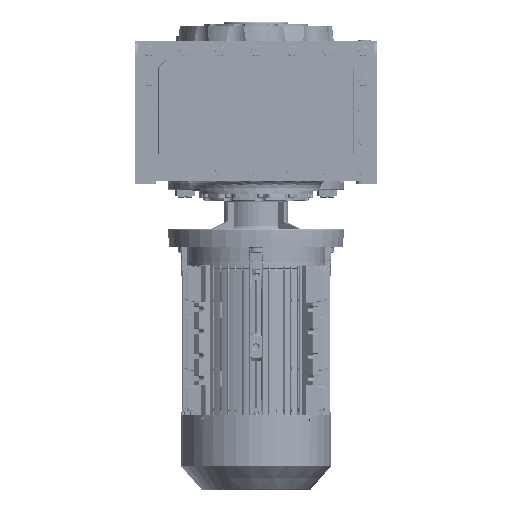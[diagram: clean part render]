
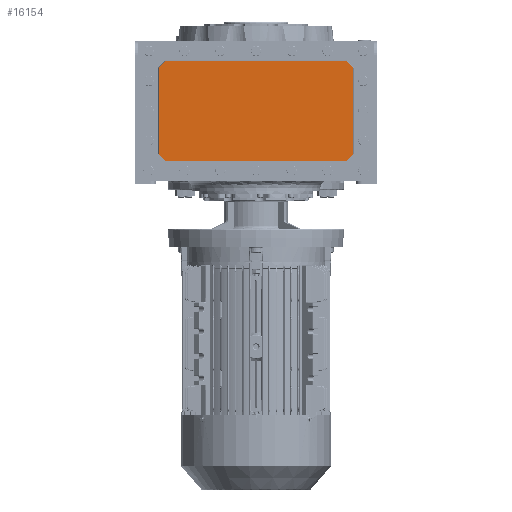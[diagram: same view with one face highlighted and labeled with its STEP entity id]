
A CAD part, front view. The second image highlights one B-rep face of the part: STEP entity #16154.
In plain terms, the highlighted planar face has unit normal (0, -1, 0).
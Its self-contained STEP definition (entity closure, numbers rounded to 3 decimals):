
#16154 = ADVANCED_FACE ( 'NONE', ( #171683 ), #269854, .F. ) ;
#20175 = EDGE_CURVE ( 'NONE', #52793, #52820, #66032, .T. ) ;
#20263 = EDGE_CURVE ( 'NONE', #52813, #52793, #66142, .T. ) ;
#20311 = EDGE_CURVE ( 'NONE', #52806, #52778, #66297, .T. ) ;
#20313 = EDGE_CURVE ( 'NONE', #52861, #52813, #66365, .T. ) ;
#20328 = EDGE_CURVE ( 'NONE', #52778, #52780, #66284, .T. ) ;
#20358 = EDGE_CURVE ( 'NONE', #52820, #52806, #66313, .T. ) ;
#20410 = EDGE_CURVE ( 'NONE', #52908, #52861, #66481, .T. ) ;
#20436 = EDGE_CURVE ( 'NONE', #52780, #52908, #66570, .T. ) ;
#37915 = AXIS2_PLACEMENT_3D ( 'NONE', #270016, #270031, #270113 ) ;
#52778 = VERTEX_POINT ( 'NONE', #237932 ) ;
#52780 = VERTEX_POINT ( 'NONE', #238060 ) ;
#52793 = VERTEX_POINT ( 'NONE', #237921 ) ;
#52806 = VERTEX_POINT ( 'NONE', #237937 ) ;
#52813 = VERTEX_POINT ( 'NONE', #237925 ) ;
#52820 = VERTEX_POINT ( 'NONE', #237977 ) ;
#52861 = VERTEX_POINT ( 'NONE', #237784 ) ;
#52908 = VERTEX_POINT ( 'NONE', #238023 ) ;
#65976 = VECTOR ( 'NONE', #222081, 1000. ) ;
#66032 = LINE ( 'NONE', #222134, #65976 ) ;
#66142 = LINE ( 'NONE', #222649, #66186 ) ;
#66186 = VECTOR ( 'NONE', #222635, 1000. ) ;
#66284 = LINE ( 'NONE', #223128, #66326 ) ;
#66297 = LINE ( 'NONE', #222890, #66329 ) ;
#66313 = LINE ( 'NONE', #223325, #66332 ) ;
#66326 = VECTOR ( 'NONE', #223053, 1000. ) ;
#66329 = VECTOR ( 'NONE', #222966, 1000. ) ;
#66332 = VECTOR ( 'NONE', #223263, 1000. ) ;
#66346 = VECTOR ( 'NONE', #223007, 1000. ) ;
#66365 = LINE ( 'NONE', #222898, #66346 ) ;
#66481 = LINE ( 'NONE', #220267, #66502 ) ;
#66502 = VECTOR ( 'NONE', #220286, 1000. ) ;
#66530 = VECTOR ( 'NONE', #220430, 1000. ) ;
#66570 = LINE ( 'NONE', #220411, #66530 ) ;
#171683 = FACE_OUTER_BOUND ( 'NONE', #323695, .T. ) ;
#220267 = CARTESIAN_POINT ( 'NONE',  ( -155., -169.5, 208.562 ) ) ;
#220286 = DIRECTION ( 'NONE',  ( 1., 0., 0. ) ) ;
#220411 = CARTESIAN_POINT ( 'NONE',  ( -154.337, -169.5, 208.837 ) ) ;
#220430 = DIRECTION ( 'NONE',  ( 0.707, 0., 0.707 ) ) ;
#222081 = DIRECTION ( 'NONE',  ( -0.707, 0., -0.707 ) ) ;
#222134 = CARTESIAN_POINT ( 'NONE',  ( 166.337, -169.5, 50.163 ) ) ;
#222635 = DIRECTION ( 'NONE',  ( 0., 0., -1. ) ) ;
#222649 = CARTESIAN_POINT ( 'NONE',  ( 166.062, -169.5, 197.5 ) ) ;
#222890 = CARTESIAN_POINT ( 'NONE',  ( -166.337, -169.5, 50.163 ) ) ;
#222898 = CARTESIAN_POINT ( 'NONE',  ( 154.337, -169.5, 208.837 ) ) ;
#222966 = DIRECTION ( 'NONE',  ( -0.707, 0., 0.707 ) ) ;
#223007 = DIRECTION ( 'NONE',  ( 0.707, 0., -0.707 ) ) ;
#223053 = DIRECTION ( 'NONE',  ( 0., 0., 1. ) ) ;
#223128 = CARTESIAN_POINT ( 'NONE',  ( -166.062, -169.5, 197.5 ) ) ;
#223263 = DIRECTION ( 'NONE',  ( -1., 0., 0. ) ) ;
#223325 = CARTESIAN_POINT ( 'NONE',  ( -155., -169.5, 38.438 ) ) ;
#237784 = CARTESIAN_POINT ( 'NONE',  ( 154.612, -169.5, 208.562 ) ) ;
#237921 = CARTESIAN_POINT ( 'NONE',  ( 166.062, -169.5, 49.888 ) ) ;
#237925 = CARTESIAN_POINT ( 'NONE',  ( 166.062, -169.5, 197.112 ) ) ;
#237932 = CARTESIAN_POINT ( 'NONE',  ( -166.062, -169.5, 49.888 ) ) ;
#237937 = CARTESIAN_POINT ( 'NONE',  ( -154.612, -169.5, 38.438 ) ) ;
#237977 = CARTESIAN_POINT ( 'NONE',  ( 154.612, -169.5, 38.438 ) ) ;
#238023 = CARTESIAN_POINT ( 'NONE',  ( -154.612, -169.5, 208.562 ) ) ;
#238060 = CARTESIAN_POINT ( 'NONE',  ( -166.062, -169.5, 197.112 ) ) ;
#269854 = PLANE ( 'NONE',  #37915 ) ;
#270016 = CARTESIAN_POINT ( 'NONE',  ( 194., -169.5, 9. ) ) ;
#270031 = DIRECTION ( 'NONE',  ( 0., 1., 0. ) ) ;
#270113 = DIRECTION ( 'NONE',  ( 0., 0., 1. ) ) ;
#270803 = ORIENTED_EDGE ( 'NONE', *, *, #20313, .F. ) ;
#270879 = ORIENTED_EDGE ( 'NONE', *, *, #20328, .F. ) ;
#271286 = ORIENTED_EDGE ( 'NONE', *, *, #20358, .F. ) ;
#271347 = ORIENTED_EDGE ( 'NONE', *, *, #20410, .F. ) ;
#271352 = ORIENTED_EDGE ( 'NONE', *, *, #20436, .F. ) ;
#271495 = ORIENTED_EDGE ( 'NONE', *, *, #20263, .F. ) ;
#271531 = ORIENTED_EDGE ( 'NONE', *, *, #20311, .F. ) ;
#271566 = ORIENTED_EDGE ( 'NONE', *, *, #20175, .F. ) ;
#323695 = EDGE_LOOP ( 'NONE', ( #270879, #271531, #271286, #271566, #271495, #270803, #271347, #271352 ) ) ;
